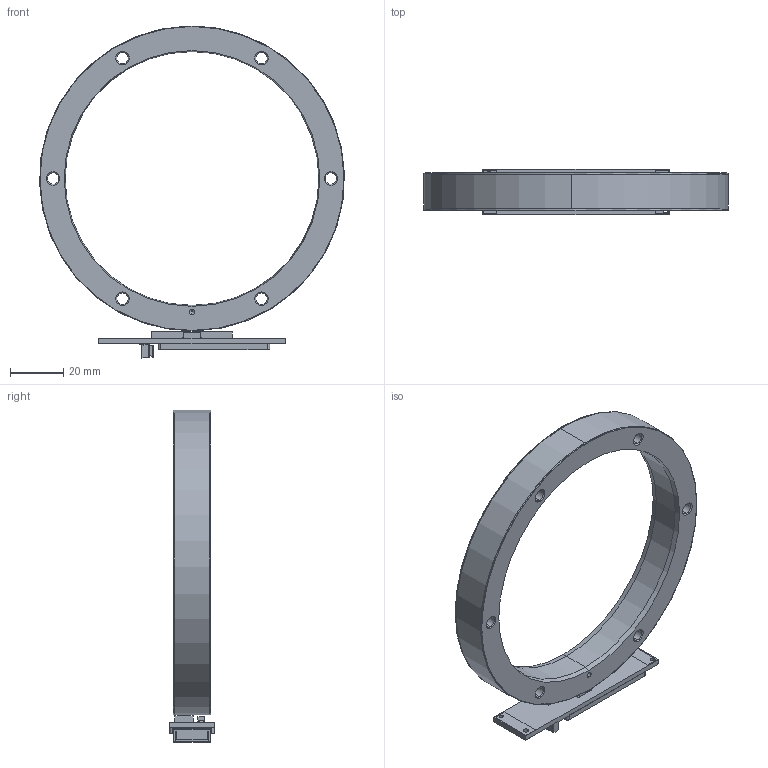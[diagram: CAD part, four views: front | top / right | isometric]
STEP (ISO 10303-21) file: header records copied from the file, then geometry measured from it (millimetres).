
FILE_DESCRIPTION (( 'STEP AP214' ), '1' );
FILE_NAME ('DBRxVx_SAR114.STEP', '2024-02-01T09:43:38', ( '' ), ( '' ), 'SwSTEP 2.0', 'SolidWorks 2022', '' );
FILE_SCHEMA (( 'AUTOMOTIVE_DESIGN' ));
Length unit declared in the file: millimetre
Products named in the file (1): DBRxVx_SAR114
Bounding box: 114.15 x 17 x 124.29 mm (x, y, z)
Volume: 47214.6 mm3; surface area: 20114.7 mm2
Topology: 2 solids, 2 shells, 1410 faces, 3876 edges, 2575 vertices
Faces by surface type: plane 1037, bspline 232, cylinder 93, cone 40, torus 4, sphere 4
Entity records: 72310 total; most frequent: CARTESIAN_POINT 26231, ORIENTED_EDGE 7742, DIRECTION 3921, EDGE_CURVE 3871, VERTEX_POINT 2575, B_SPLINE_CURVE_WITH_KNOTS 2424, EDGE_LOOP 1546, UNCERTAINTY_MEASURE_WITH_UNIT 1414
